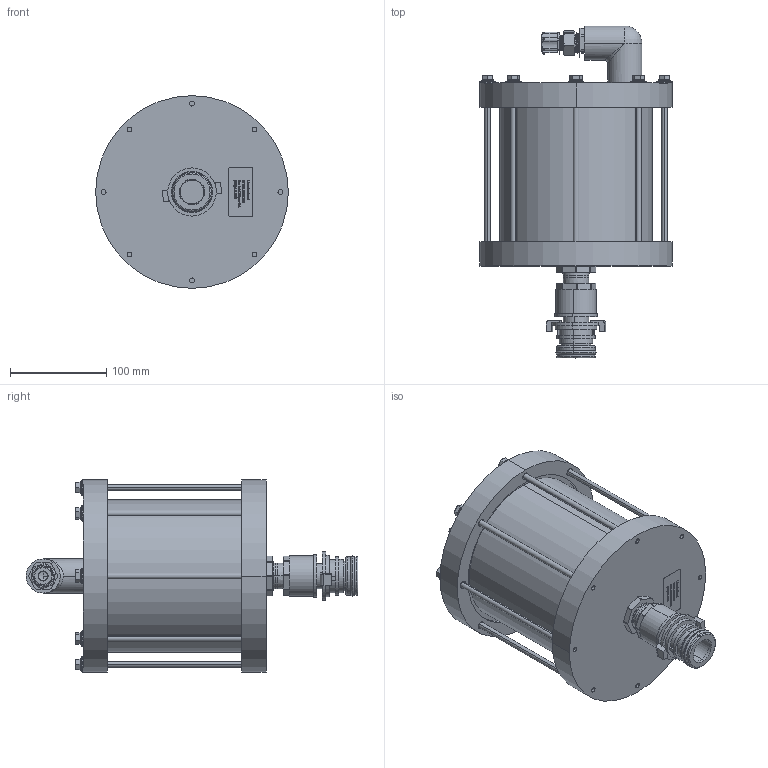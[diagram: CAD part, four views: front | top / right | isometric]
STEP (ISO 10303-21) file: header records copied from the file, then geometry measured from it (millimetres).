
FILE_DESCRIPTION (( 'STEP AP214' ), '1' );
FILE_NAME ('DV-0200-03.STEP', '2018-07-25T15:40:10', ( '' ), ( '' ), 'SwSTEP 2.0', 'SolidWorks 2017', '' );
FILE_SCHEMA (( 'AUTOMOTIVE_DESIGN' ));
Length unit declared in the file: inch
Products named in the file (1): DV-0200-03
Bounding box: 200.66 x 345.63 x 200.66 mm (x, y, z)
Surface area: 284143.8 mm2 (no closed solid volume)
Topology: 0 solids, 106 shells, 548 faces, 2481 edges, 2036 vertices
Faces by surface type: plane 218, cylinder 197, torus 74, cone 50, bspline 8, sphere 1
Entity records: 45665 total; most frequent: CARTESIAN_POINT 20159, ORIENTED_EDGE 3420, DIRECTION 3274, EDGE_CURVE 2477, VERTEX_POINT 2035, AXIS2_PLACEMENT_3D 1106, VECTOR 1062, LINE 1062
